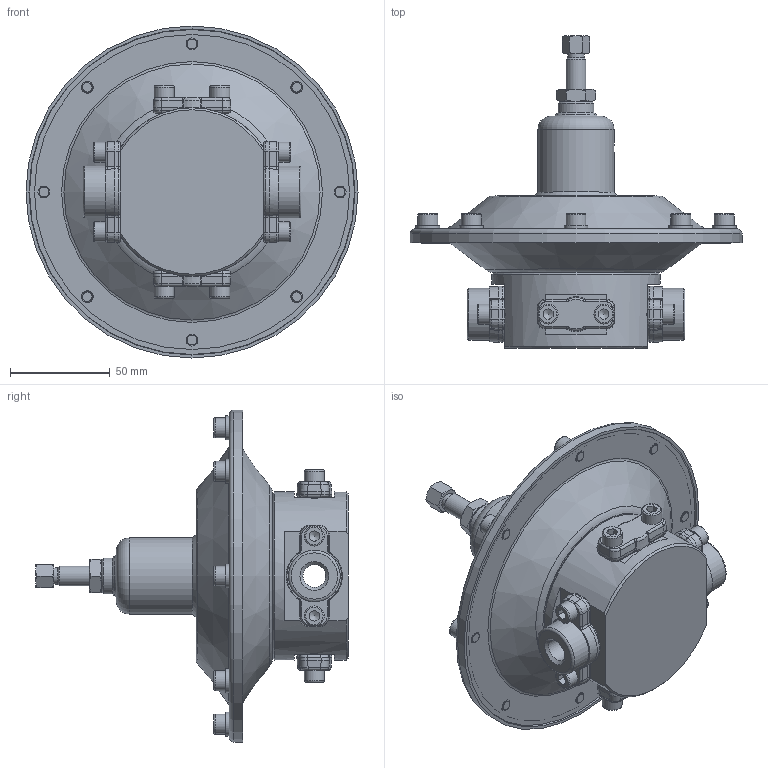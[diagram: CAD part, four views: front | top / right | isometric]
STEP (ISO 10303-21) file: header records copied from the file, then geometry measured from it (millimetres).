
FILE_DESCRIPTION(/* description */ (''),/* implementation_level */ '2;1');
FILE_NAME(/* name */ 'I:\TEC\Lavoro\ARCHIVIO DISEGNI INVENTOR\WorkSpace\Schizzi\Francesco\1 - AIRCOM MERDA\STEP PER aircomerda\312V3# 14.stp',/* time_stamp */ '2023-04-18T13:13:15+02:00',/* author */ ('FrancescoLazio'),/* organization */ (''),/* preprocessor_version */ 'ST-DEVELOPER v19',/* originating_system */ 'Autodesk Inventor 2023',/* authorisation */ '');
FILE_SCHEMA (('AUTOMOTIVE_DESIGN { 1 0 10303 214 3 1 1 }'));
Length unit declared in the file: millimetre
Products named in the file (30): C85028; 0DC10405; 0DC10410; 0DC10410_1; 0DC10410_2; 0DC10410_3; 0DC10410_4; 0DC10410_5; 0DC10410_6; 0DC10410_7; P43163; P43163_1; P43163_2; P43163_3; P43163_4; P43163_5; P20649; P37131; C51009; C51009_1; P64042; P21039; P38058; P43123; 0DN11400; OR 07021; P64038; 0DQ10400; OR 07054; P37140
Assembly tree (47 placements, depth 3):
  C85028
    0DQ10400  x8
    0DC10405  x8
    0DC10410
    0DC10410_1
    0DC10410_2
    0DC10410_3
    0DC10410_4
    0DC10410_5
    0DC10410_6
    0DC10410_7
    P43163
    P43163_1
    P43163_2
    P43163_3
    P43163_4
    P43163_5
    P20649
    P37131  x2
    C51009
      C51009_1
      P64042
      P21039
      P38058
    P43123
    0DN11400
    OR 07021  x2
    P64038
    OR 07054  x2
    P37140  x2
Bounding box: 166.5 x 156.71 x 166.5 mm (x, y, z)
Volume: 154417.8 mm3; surface area: 162112.1 mm2
Topology: 47 solids, 47 shells, 825 faces, 1952 edges, 1236 vertices
Faces by surface type: plane 289, cylinder 212, cone 134, torus 110, bspline 80
Full cylindrical faces by diameter (mm): 4.134 x1, 4.917 x16, 5.1 x2, 6 x16, 6.4 x8, 6.5 x16, 7.7 x2, 8.3 x1, 8.917 x1, 10 x18, 11.2 x2, 11.445 x2, 12 x8, 14.9 x1, 15 x1, 18 x2, 19 x2, 19.5 x1, 20.3 x2, 23.8 x2, 26 x2, 37 x1, 38.2 x2, 38.5 x1, 68 x1, 84.5 x1, 162 x1, 163 x1, 163.5 x1, 166.5 x1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
Entity records: 19365 total; most frequent: CARTESIAN_POINT 5541, DIRECTION 2721, ORIENTED_EDGE 2598, EDGE_CURVE 1299, AXIS2_PLACEMENT_3D 1164, VERTEX_POINT 838, EDGE_LOOP 651, CIRCLE 566
